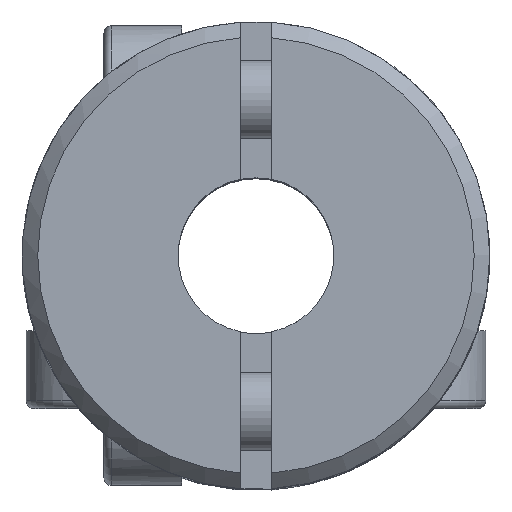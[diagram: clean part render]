
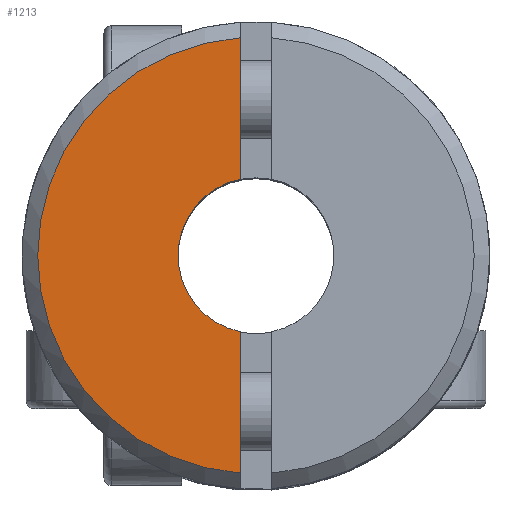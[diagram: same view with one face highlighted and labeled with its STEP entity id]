
A CAD part, top view. The second image highlights one B-rep face of the part: STEP entity #1213.
In plain terms, the highlighted planar face has unit normal (0, 0, 1).
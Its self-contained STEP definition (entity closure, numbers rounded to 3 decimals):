
#47 = CARTESIAN_POINT ( 'NONE',  ( -0.4, 15., 9.25 ) ) ;
#477 = EDGE_CURVE ( 'NONE', #1632, #2681, #3546, .T. ) ;
#529 = VECTOR ( 'NONE', #3800, 1000. ) ;
#603 = DIRECTION ( 'NONE',  ( 0., -1., 0. ) ) ;
#648 = DIRECTION ( 'NONE',  ( 0., 0., 1. ) ) ;
#875 = FACE_OUTER_BOUND ( 'NONE', #3847, .T. ) ;
#946 = ORIENTED_EDGE ( 'NONE', *, *, #1242, .F. ) ;
#947 = EDGE_CURVE ( 'NONE', #1632, #4289, #1362, .T. ) ;
#1111 = CARTESIAN_POINT ( 'NONE',  ( 0., 2., 9.25 ) ) ;
#1167 = EDGE_CURVE ( 'NONE', #1485, #2681, #2488, .T. ) ;
#1213 = ADVANCED_FACE ( 'NONE', ( #875 ), #2624, .F. ) ;
#1242 = EDGE_CURVE ( 'NONE', #4289, #1485, #1711, .T. ) ;
#1362 = LINE ( 'NONE', #2397, #529 ) ;
#1374 = CARTESIAN_POINT ( 'NONE',  ( -0.4, -5.586, 9.25 ) ) ;
#1403 = AXIS2_PLACEMENT_3D ( 'NONE', #1111, #4030, #2230 ) ;
#1436 = DIRECTION ( 'NONE',  ( 0., -1., 0. ) ) ;
#1468 = ORIENTED_EDGE ( 'NONE', *, *, #947, .F. ) ;
#1485 = VERTEX_POINT ( 'NONE', #4421 ) ;
#1521 = CARTESIAN_POINT ( 'NONE',  ( 0., 0., 9.25 ) ) ;
#1606 = CARTESIAN_POINT ( 'NONE',  ( -0.4, 1.96, 9.25 ) ) ;
#1632 = VERTEX_POINT ( 'NONE', #3104 ) ;
#1711 = CIRCLE ( 'NONE', #2451, 2. ) ;
#2230 = DIRECTION ( 'NONE',  ( 0., 1., 0. ) ) ;
#2397 = CARTESIAN_POINT ( 'NONE',  ( -0.4, 15., 9.25 ) ) ;
#2451 = AXIS2_PLACEMENT_3D ( 'NONE', #3029, #648, #603 ) ;
#2488 = LINE ( 'NONE', #47, #4280 ) ;
#2624 = PLANE ( 'NONE',  #1403 ) ;
#2681 = VERTEX_POINT ( 'NONE', #1374 ) ;
#3029 = CARTESIAN_POINT ( 'NONE',  ( 0., 0., 9.25 ) ) ;
#3104 = CARTESIAN_POINT ( 'NONE',  ( -0.4, 5.586, 9.25 ) ) ;
#3345 = ORIENTED_EDGE ( 'NONE', *, *, #1167, .F. ) ;
#3393 = AXIS2_PLACEMENT_3D ( 'NONE', #1521, #3753, #3733 ) ;
#3546 = CIRCLE ( 'NONE', #3393, 5.6 ) ;
#3733 = DIRECTION ( 'NONE',  ( 0., 1., 0. ) ) ;
#3753 = DIRECTION ( 'NONE',  ( 0., 0., 1. ) ) ;
#3800 = DIRECTION ( 'NONE',  ( 0., -1., 0. ) ) ;
#3847 = EDGE_LOOP ( 'NONE', ( #4041, #3345, #946, #1468 ) ) ;
#4030 = DIRECTION ( 'NONE',  ( 0., 0., -1. ) ) ;
#4041 = ORIENTED_EDGE ( 'NONE', *, *, #477, .T. ) ;
#4280 = VECTOR ( 'NONE', #1436, 1000. ) ;
#4289 = VERTEX_POINT ( 'NONE', #1606 ) ;
#4421 = CARTESIAN_POINT ( 'NONE',  ( -0.4, -1.96, 9.25 ) ) ;
